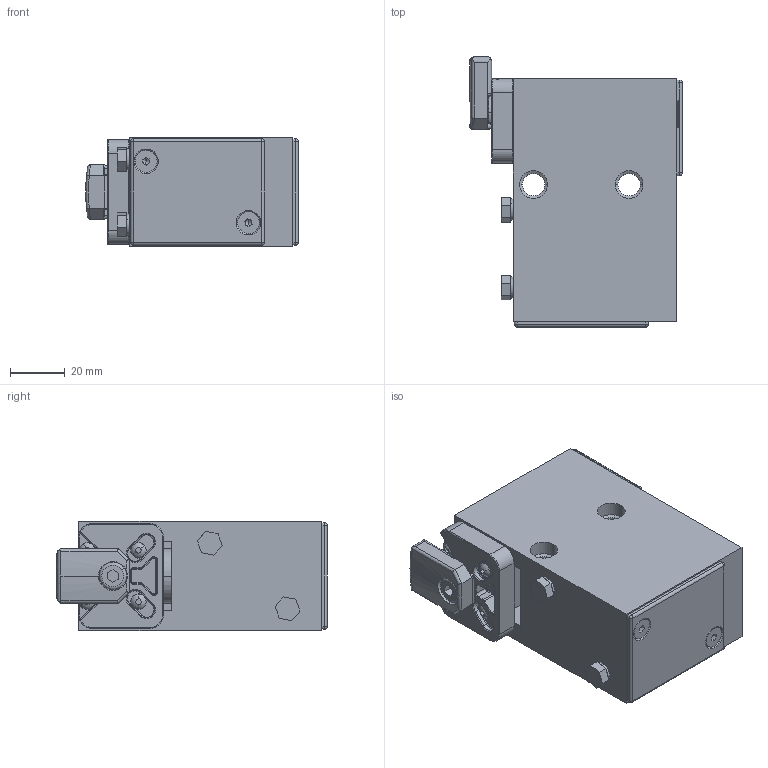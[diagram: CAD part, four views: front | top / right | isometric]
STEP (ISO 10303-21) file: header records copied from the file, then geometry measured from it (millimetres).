
FILE_DESCRIPTION (( 'STEP AP203' ), '1' );
FILE_NAME ('DBS-90-08-DW.STEP', '2022-07-05T12:06:15', ( '' ), ( '' ), 'SwSTEP 2.0', 'SolidWorks 2019', '' );
FILE_SCHEMA (( 'CONFIG_CONTROL_DESIGN' ));
Length unit declared in the file: millimetre
Products named in the file (1): DBS-90-08-DW
Bounding box: 77.9 x 99.03 x 40 mm (x, y, z)
Volume: 212801.3 mm3; surface area: 52191.7 mm2
Topology: 22 solids, 22 shells, 588 faces, 1388 edges, 833 vertices
Faces by surface type: plane 230, cylinder 208, cone 71, torus 52, sphere 21, bspline 6
Entity records: 17228 total; most frequent: CARTESIAN_POINT 3517, DIRECTION 3043, ORIENTED_EDGE 2688, EDGE_CURVE 1344, AXIS2_PLACEMENT_3D 1163, VERTEX_POINT 831, LINE 717, VECTOR 717
